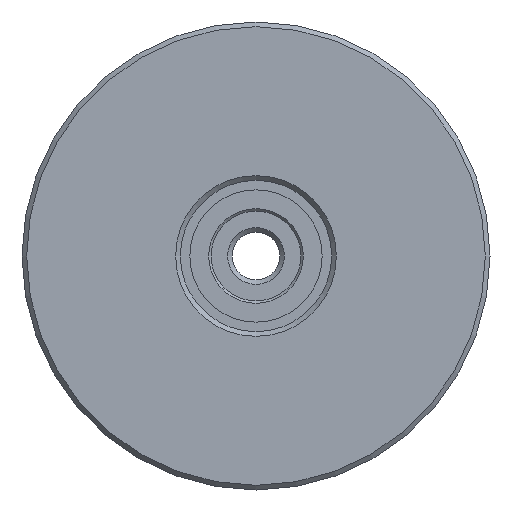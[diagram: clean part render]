
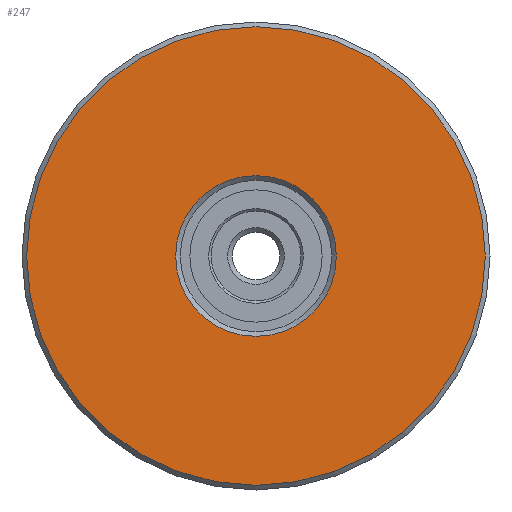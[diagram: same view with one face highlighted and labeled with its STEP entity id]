
A CAD part, left-side view. The second image highlights one B-rep face of the part: STEP entity #247.
In plain terms, the highlighted planar face has unit normal (-1, 0, 0) as drawn and (0, -1, 0) by its records, which use the part's own axes.
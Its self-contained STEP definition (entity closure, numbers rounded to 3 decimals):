
#247 = ADVANCED_FACE( '', ( #353, #354 ), #355, .T. );
#353 = FACE_OUTER_BOUND( '', #594, .T. );
#354 = FACE_BOUND( '', #595, .T. );
#355 = PLANE( '', #596 );
#594 = EDGE_LOOP( '', ( #842 ) );
#595 = EDGE_LOOP( '', ( #843 ) );
#596 = AXIS2_PLACEMENT_3D( '', #844, #845, #846 );
#842 = ORIENTED_EDGE( '', *, *, #1493, .T. );
#843 = ORIENTED_EDGE( '', *, *, #1492, .F. );
#844 = CARTESIAN_POINT( '', ( 17., 0., 0. ) );
#845 = DIRECTION( '', ( 0., -1., 0. ) );
#846 = DIRECTION( '', ( 0., 0., -1. ) );
#1492 = EDGE_CURVE( '', #1685, #1685, #1686, .T. );
#1493 = EDGE_CURVE( '', #1687, #1687, #1688, .T. );
#1685 = VERTEX_POINT( '', #2015 );
#1686 = CIRCLE( '', #2016, 17. );
#1687 = VERTEX_POINT( '', #2017 );
#1688 = CIRCLE( '', #2018, 48.5 );
#2015 = CARTESIAN_POINT( '', ( 0., 0., -17. ) );
#2016 = AXIS2_PLACEMENT_3D( '', #2733, #2734, #2735 );
#2017 = CARTESIAN_POINT( '', ( 0., 0., -48.5 ) );
#2018 = AXIS2_PLACEMENT_3D( '', #2736, #2737, #2738 );
#2733 = CARTESIAN_POINT( '', ( 0., 0., 0. ) );
#2734 = DIRECTION( '', ( 0., -1., 0. ) );
#2735 = DIRECTION( '', ( 0., 0., -1. ) );
#2736 = CARTESIAN_POINT( '', ( 0., 0., 0. ) );
#2737 = DIRECTION( '', ( 0., -1., 0. ) );
#2738 = DIRECTION( '', ( 0., 0., -1. ) );
